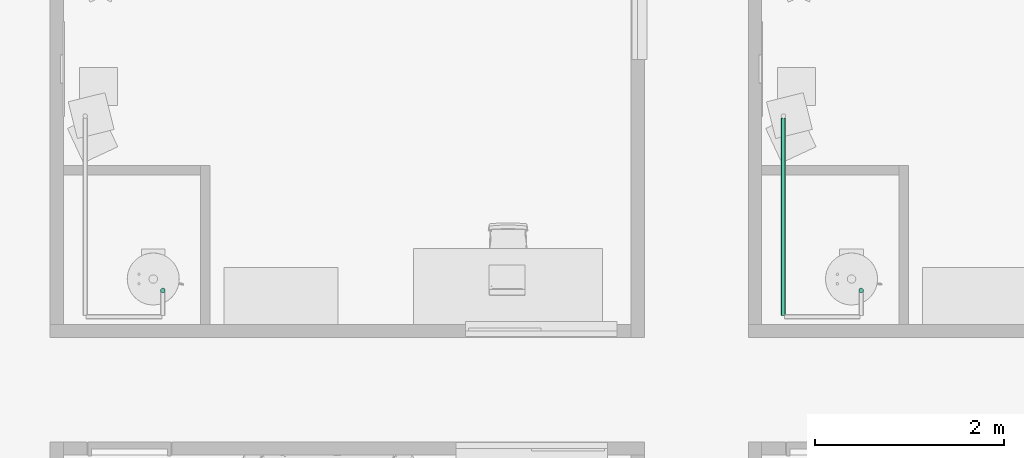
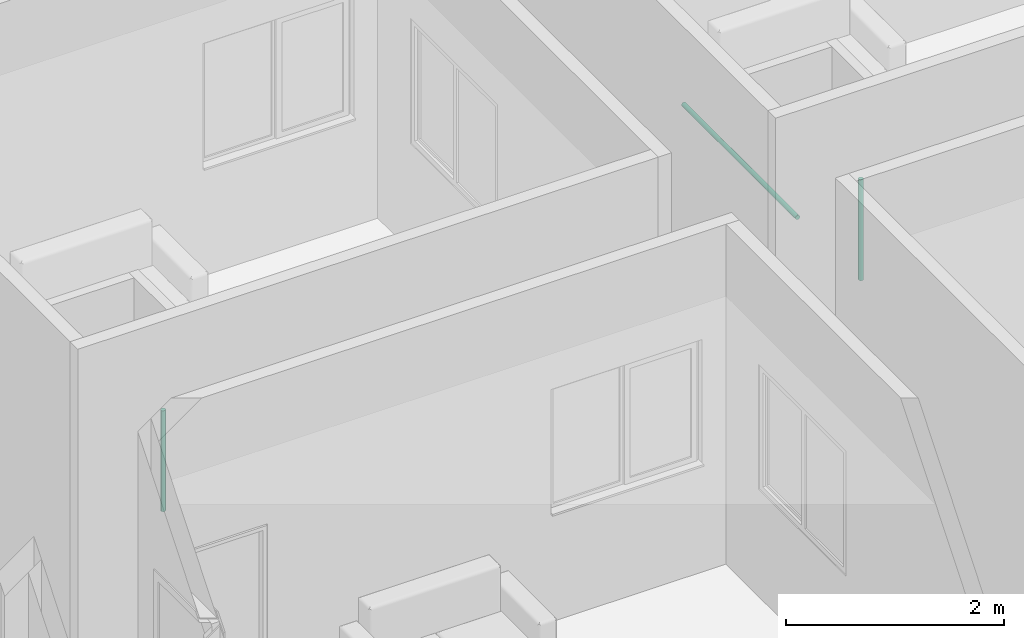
# One storey, part 30 of 71: 3 pipe segments.
"""IFC4 building model written with IfcOpenShell, lengths in centimetres."""

from ifc_helpers import new_model, entity, si_unit, converted_unit, derived_unit, direction, frame, origin, place, context, subcontext, project, spatial, arc, indexed_curve, outline, extrude, type_object, element, save


model = new_model("IFC4")

# Units and contexts
model_context = context("Model", 3, precision=0.001, world=origin(), true_north=direction((6.123233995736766e-17, 1.0)))
body_context = subcontext(model_context, "Body", "Model", "MODEL_VIEW")
ifc_project = project(units=[si_unit("LENGTHUNIT", "METRE", prefix="CENTI"), si_unit("AREAUNIT", "SQUARE_METRE"), si_unit("VOLUMEUNIT", "CUBIC_METRE"), derived_unit("THERMALTRANSMITTANCEUNIT", [(si_unit("MASSUNIT", "GRAM", prefix="KILO"), 1), (si_unit("THERMODYNAMICTEMPERATUREUNIT", "KELVIN"), -1), (si_unit("TIMEUNIT", "SECOND"), -3)]), converted_unit("PLANEANGLEUNIT", "DEGREE", entity("IfcPlaneAngleMeasure", 0.017453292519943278), si_unit("PLANEANGLEUNIT", "RADIAN"), dimensions=[0, 0, 0, 0, 0, 0, 0]), derived_unit("MASSDENSITYUNIT", [(si_unit("MASSUNIT", "GRAM", prefix="KILO"), 1), (si_unit("LENGTHUNIT", "METRE"), -3)]), derived_unit("VAPORPERMEABILITYUNIT", [(si_unit("LENGTHUNIT", "METRE"), -1), (si_unit("TIMEUNIT", "SECOND"), 1)]), derived_unit("USERDEFINED", [(si_unit("MASSUNIT", "GRAM", prefix="KILO"), 1), (si_unit("TIMEUNIT", "SECOND"), -3), (si_unit("LENGTHUNIT", "METRE"), 3), (si_unit("ELECTRICCURRENTUNIT", "AMPERE"), -2)]), derived_unit("SPECIFICHEATCAPACITYUNIT", [(si_unit("THERMODYNAMICTEMPERATUREUNIT", "KELVIN"), -1), (si_unit("LENGTHUNIT", "METRE"), 2), (si_unit("TIMEUNIT", "SECOND"), -2)]), derived_unit("THERMALCONDUCTANCEUNIT", [(si_unit("MASSUNIT", "GRAM", prefix="KILO"), 1), (si_unit("THERMODYNAMICTEMPERATUREUNIT", "KELVIN"), -1), (si_unit("TIMEUNIT", "SECOND"), -3), (si_unit("LENGTHUNIT", "METRE"), 1)]), si_unit("PRESSUREUNIT", "PASCAL"), derived_unit("MODULUSOFELASTICITYUNIT", [(si_unit("MASSUNIT", "GRAM", prefix="KILO"), 1), (si_unit("LENGTHUNIT", "METRE"), -1), (si_unit("TIMEUNIT", "SECOND"), -2)]), derived_unit("THERMALEXPANSIONCOEFFICIENTUNIT", [(si_unit("THERMODYNAMICTEMPERATUREUNIT", "KELVIN"), -1)])], contexts=[model_context])

# Site, building, storey
site_placement = place(None, origin())
site = spatial("IfcSite", under=ifc_project, at=site_placement, Name="Default", CompositionType="ELEMENT")
building_placement = place(site_placement, origin())
building = spatial("IfcBuilding", under=site, at=building_placement, Name="IDS Escape Game Building", CompositionType="ELEMENT")
storey_placement = place(building_placement, frame((0.0, 0.0, 1200.0)))
storey = spatial("IfcBuildingStorey", under=building, at=storey_placement, Name="03_Third Floor", CompositionType="ELEMENT", Elevation=1200.0)

# Pipe segments
pipe_segment_type = type_object("IfcPipeSegmentType", Name="Pipe Types:Piping Aluminum", PredefinedType="NOTDEFINED")
pipe_segment_1_placement = place(storey_placement, origin())
element("IfcPipeSegment", 1, at=pipe_segment_1_placement, inside=storey, type_object=pipe_segment_type, Name="Pipe Types:Piping Aluminum", ObjectType="Pipe Types:Piping Aluminum", PredefinedType="NOTDEFINED", context=body_context, shape_type="SweptSolid", body=[
    extrude(outline(indexed_curve([(2.412999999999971, -4.331468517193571e-13), (1.7062486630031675, 1.7062486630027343), (0.0, 2.412999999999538), (-1.7062486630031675, 1.7062486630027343), (-2.412999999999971, -4.331468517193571e-13), (-1.7062486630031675, -1.7062486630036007), (0.0, -2.4130000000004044), (1.7062486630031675, -1.7062486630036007)], segments=[arc(1, 2, 3), arc(3, 4, 5), arc(5, 6, 7), arc(7, 8, 1)], self_intersect=False)), frame((2326.150000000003, 1962.9000000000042, 128.0), z_axis=(0.0, 0.0, 1.0), x_axis=(-1.0, 0.0, 0.0)), (0.0, 0.0, 1.0), 112.90000000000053),
])
pipe_segment_2_placement = place(storey_placement, origin())
element("IfcPipeSegment", 2, at=pipe_segment_2_placement, inside=storey, type_object=pipe_segment_type, Name="Pipe Types:Piping Aluminum", ObjectType="Pipe Types:Piping Aluminum", PredefinedType="NOTDEFINED", context=body_context, shape_type="SweptSolid", body=[
    extrude(outline(indexed_curve([(2.412999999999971, -4.331468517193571e-13), (1.7062486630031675, 1.7062486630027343), (0.0, 2.412999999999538), (-1.7062486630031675, 1.7062486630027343), (-2.412999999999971, -4.331468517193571e-13), (-1.7062486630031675, -1.7062486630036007), (0.0, -2.4130000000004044), (1.7062486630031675, -1.7062486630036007)], segments=[arc(1, 2, 3), arc(3, 4, 5), arc(5, 6, 7), arc(7, 8, 1)], self_intersect=False)), frame((3064.1500000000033, 1962.9000000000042, 128.0), z_axis=(0.0, 0.0, 1.0), x_axis=(-1.0, 0.0, 0.0)), (0.0, 0.0, 1.0), 112.90000000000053),
])
pipe_segment_3_placement = place(storey_placement, origin())
element("IfcPipeSegment", 3, at=pipe_segment_3_placement, inside=storey, type_object=pipe_segment_type, Name="Pipe Types:Piping Aluminum", ObjectType="Pipe Types:Piping Aluminum", PredefinedType="NOTDEFINED", context=body_context, shape_type="SweptSolid", body=[
    extrude(outline(indexed_curve([(2.412999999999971, 0.0), (1.7062486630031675, 1.7062486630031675), (0.0, 2.412999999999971), (-1.7062486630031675, 1.7062486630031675), (-2.412999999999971, 0.0), (-1.7062486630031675, -1.7062486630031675), (0.0, -2.412999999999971), (1.7062486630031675, -1.7062486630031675)], segments=[arc(1, 2, 3), arc(3, 4, 5), arc(5, 6, 7), arc(7, 8, 1)], self_intersect=False)), frame((2982.046716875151, 1936.364827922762, 242.0), z_axis=(0.0, 1.0, 0.0), x_axis=(1.0, 0.0, 0.0)), (0.0, 0.0, 1.0), 208.80000000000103),
])

save(model, "model.ifc")
